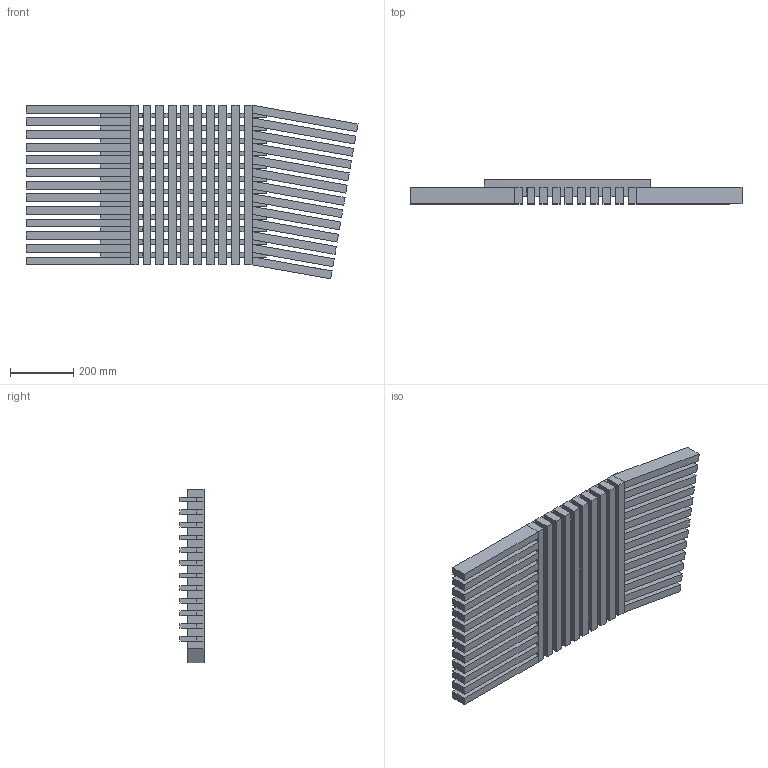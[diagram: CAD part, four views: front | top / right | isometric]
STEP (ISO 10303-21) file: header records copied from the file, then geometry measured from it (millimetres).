
FILE_DESCRIPTION (( 'STEP AP203' ), '1' );
FILE_NAME ('UNEVEN WALL WOOD RUG 105x55x8.STEP', '2023-09-18T06:12:56', ( '' ), ( '' ), 'SwSTEP 2.0', 'SolidWorks 2023', '' );
FILE_SCHEMA (( 'CONFIG_CONTROL_DESIGN' ));
Length unit declared in the file: millimetre
Products named in the file (2): Group1^UNEVEN WALL WOOD RUG 105x55x8; UNEVEN WALL WOOD RUG 105x55x8
Assembly tree (1 placements, depth 2):
  UNEVEN WALL WOOD RUG 105x55x8
    Group1^UNEVEN WALL WOOD RUG 105x55x8
Bounding box: 1049.83 x 76 x 548.81 mm (x, y, z)
Volume: 20725104.6 mm3; surface area: 2916669.3 mm2
Topology: 47 solids, 47 shells, 780 faces, 2057 edges, 1371 vertices
Faces by surface type: plane 780
Entity records: 23677 total; most frequent: CARTESIAN_POINT 4212, ORIENTED_EDGE 4114, DIRECTION 3625, LINE 2057, EDGE_CURVE 2057, VECTOR 2057, VERTEX_POINT 1371, AXIS2_PLACEMENT_3D 784
